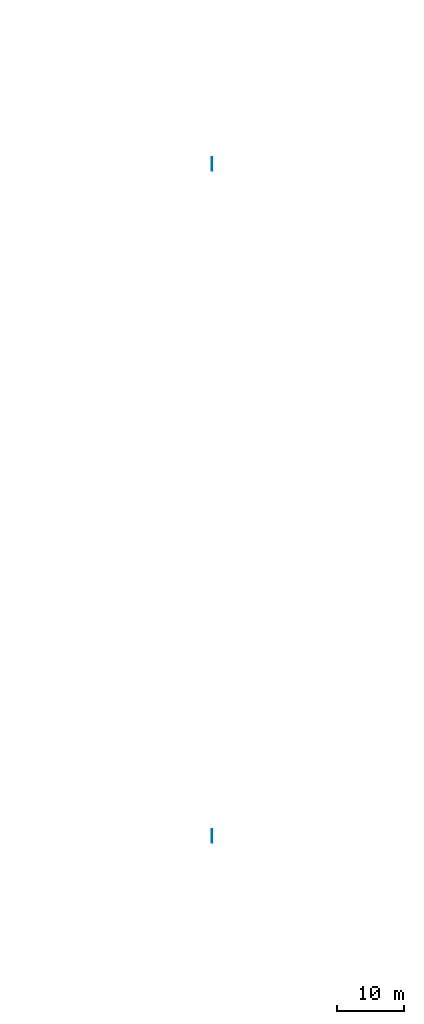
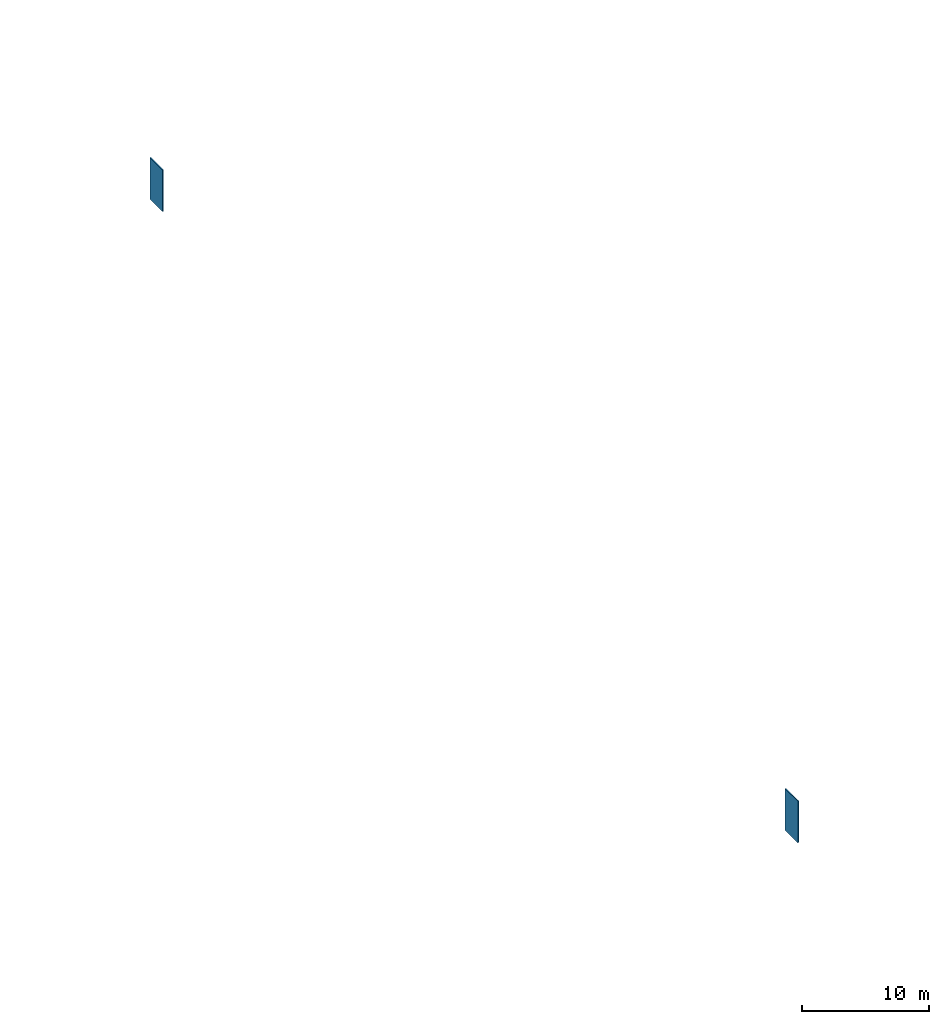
# One storey, part 100 of 164: 2 walls.
"""IFC2X3 building model written with IfcOpenShell, lengths in millimetres."""

import ifcopenshell
import ifcopenshell.guid

model = None  # the IFC model being written
_history = None  # IfcOwnerHistory: only IFC2X3 demands one
_inside = {}  # id of a spatial element -> (the spatial element, [elements in it])
_under = {}  # id of a project, library or spatial element -> (it, [spatial elements below it])
_declared = {}  # id of a project -> (the project, [libraries it declares])
_typed = {}  # id of a type object -> (the type object, [elements of that type])
_made_of = {}  # id of a material, layer set ... -> (it, [elements and type objects made of it])


def new_model(schema):
    """Start an empty IFC model of exactly this schema.

    Asked for "IFC4X3", IfcOpenShell would pick the latest addendum, in which some entities
    have other attributes; the version numbers below select the first issue.
    IFC2X3 requires an IfcOwnerHistory on every rooted entity: one is made here for all.
    """
    global model, _history
    if schema == "IFC4X3":
        model = ifcopenshell.file(schema_version=(4, 3, 0, 0))
    else:
        model = ifcopenshell.file(schema=schema)
    _inside.clear()
    _under.clear()
    _declared.clear()
    _typed.clear()
    _made_of.clear()
    _history = None
    if model.schema == "IFC2X3":
        org = make("IfcOrganization", Name="unknown")
        user = make(
            "IfcPersonAndOrganization",
            ThePerson=make("IfcPerson", FamilyName="unknown"),
            TheOrganization=org,
        )
        app = make(
            "IfcApplication",
            ApplicationDeveloper=org,
            Version="unknown",
            ApplicationFullName="unknown",
            ApplicationIdentifier="unknown",
        )
        _history = make(
            "IfcOwnerHistory",
            OwningUser=user,
            OwningApplication=app,
            ChangeAction="ADDED",
            CreationDate=0,
        )
    return model


def make(cls, **values):
    """One entity of the class cls with the attributes given. An attribute that is None is left unset."""
    return model.create_entity(
        cls, **{name: value for name, value in values.items() if value is not None}
    )


def entity(cls, *values):
    """Any entity or typed value of the class cls, its attributes in the order of the schema. None: left unset."""
    e = model.create_entity(cls)
    for i, value in enumerate(values):
        if value is not None:
            e[i] = value
    return e


def rooted(cls, **values):
    """An entity with a GlobalId (a new one), such as an element, a storey or a relation."""
    return make(cls, GlobalId=ifcopenshell.guid.new(), OwnerHistory=_history, **values)


def si_unit(unit_type, name, prefix=None):
    """IfcSIUnit, for example si_unit("LENGTHUNIT", "METRE", prefix="MILLI")."""
    return make("IfcSIUnit", UnitType=unit_type, Prefix=prefix, Name=name)


def converted_unit(unit_type, name, factor, base, dimensions=None, offset=None):
    """IfcConversionBasedUnit, such as the inch: factor (a typed value) times the base unit."""
    return make(
        "IfcConversionBasedUnit"
        if offset is None
        else "IfcConversionBasedUnitWithOffset",
        ConversionOffset=offset,
        Dimensions=None
        if dimensions is None
        else entity("IfcDimensionalExponents", *dimensions),
        UnitType=unit_type,
        Name=name,
        ConversionFactor=make(
            "IfcMeasureWithUnit", ValueComponent=factor, UnitComponent=base
        ),
    )


def derived_unit(unit_type, elements):
    """IfcDerivedUnit: a product of units, each with its exponent."""
    return make(
        "IfcDerivedUnit",
        Elements=[
            make("IfcDerivedUnitElement", Unit=unit, Exponent=power)
            for unit, power in elements
        ],
        UnitType=unit_type,
    )


def assignment(units):
    """IfcUnitAssignment: the units of a project."""
    return None if units is None else make("IfcUnitAssignment", Units=units)


def point(xyz):
    """IfcCartesianPoint."""
    return None if xyz is None else make("IfcCartesianPoint", Coordinates=xyz)


def direction(xyz):
    """IfcDirection."""
    return None if xyz is None else make("IfcDirection", DirectionRatios=xyz)


def frame(location, z_axis=None, x_axis=None):
    """IfcAxis2Placement3D, a coordinate frame: its origin and axes. An axis left out is left unset."""
    return make(
        "IfcAxis2Placement3D",
        Location=point(location),
        Axis=direction(z_axis),
        RefDirection=direction(x_axis),
    )


def frame_2d(location, x_axis=None):
    """IfcAxis2Placement2D, a coordinate frame in the plane: its origin and x axis."""
    return make(
        "IfcAxis2Placement2D", Location=point(location), RefDirection=direction(x_axis)
    )


def origin():
    """The frame at (0, 0, 0) with its axes left unset."""
    return frame((0.0, 0.0, 0.0))


def place(relative_to, where):
    """IfcLocalPlacement: puts the frame where relative to a parent placement (None: the world)."""
    return make(
        "IfcLocalPlacement", PlacementRelTo=relative_to, RelativePlacement=where
    )


def context(
    kind, dimensions, precision=None, world=None, true_north=None, identifier=None
):
    """IfcGeometricRepresentationContext, for example the 3D "Model" context."""
    return make(
        "IfcGeometricRepresentationContext",
        ContextIdentifier=identifier,
        ContextType=kind,
        CoordinateSpaceDimension=dimensions,
        Precision=precision,
        WorldCoordinateSystem=world,
        TrueNorth=true_north,
    )


def subcontext(parent, identifier, kind, view, scale=None):
    """IfcGeometricRepresentationSubContext, for example "Body" below "Model"."""
    return make(
        "IfcGeometricRepresentationSubContext",
        ContextIdentifier=identifier,
        ContextType=kind,
        ParentContext=parent,
        TargetScale=scale,
        TargetView=view,
    )


def project(units=None, contexts=None):
    """IfcProject with its units and contexts."""
    return rooted(
        "IfcProject",
        Name="project",
        RepresentationContexts=contexts,
        UnitsInContext=assignment(units),
    )


def spatial(cls, under=None, at=None, **own):
    """A site, building, storey or space (cls), placed at a placement, below another one or the project."""
    s = rooted(cls, ObjectPlacement=at, **own)
    if under is not None:
        _under.setdefault(under.id(), (under, []))[1].append(s)
    return s


def profile(cls, at=None, kind="AREA", **sizes):
    """A parametric profile (cls). Its sizes go by their IFC names, for example OverallWidth=200.0."""
    return make(cls, ProfileType=kind, Position=at, **sizes)


def rectangle(**sizes):
    """IfcRectangleProfileDef."""
    return profile("IfcRectangleProfileDef", **sizes)


def extrude(swept, where, along, depth):
    """IfcExtrudedAreaSolid: the profile swept, set in the frame where, extruded along a direction by depth."""
    return make(
        "IfcExtrudedAreaSolid",
        SweptArea=swept,
        Position=where,
        ExtrudedDirection=direction(along),
        Depth=depth,
    )


def shape(context_of_items, identifier, shape_type, items):
    """IfcShapeRepresentation: the items that make up one representation, for example the "Body"."""
    return make(
        "IfcShapeRepresentation",
        ContextOfItems=context_of_items,
        RepresentationIdentifier=identifier,
        RepresentationType=shape_type,
        Items=items,
    )


def material(Name=None, Category=None):
    """IfcMaterial."""
    return make("IfcMaterial", Name=Name, Category=Category)


def layer(
    of_material, thickness, ventilated=None, Name=None, Category=None, Priority=None
):
    """IfcMaterialLayer: one layer of a wall or slab, of a material (None: an air gap)."""
    return make(
        "IfcMaterialLayer",
        Material=of_material,
        LayerThickness=thickness,
        IsVentilated=ventilated,
        Name=Name,
        Category=Category,
        Priority=Priority,
    )


def layer_set(layers, Name=None):
    """IfcMaterialLayerSet."""
    return make("IfcMaterialLayerSet", MaterialLayers=layers, LayerSetName=Name)


def layer_usage(for_layer_set, set_direction, sense, offset, extent=None):
    """IfcMaterialLayerSetUsage: how a layer set lies in its element."""
    return make(
        "IfcMaterialLayerSetUsage",
        ForLayerSet=for_layer_set,
        LayerSetDirection=set_direction,
        DirectionSense=sense,
        OffsetFromReferenceLine=offset,
        ReferenceExtent=extent,
    )


def made_of(thing, what):
    """Note that an element or type object is made of a material, layer set ...; save() writes the relation."""
    if what is not None:
        _made_of.setdefault(what.id(), (what, []))[1].append(thing)
    return thing


def type_object(cls, material=None, **own):
    """A type object (cls), such as IfcWallType, which elements share."""
    return made_of(rooted(cls, **own), material)


def element(
    cls,
    number,
    at=None,
    inside=None,
    cuts=None,
    type_object=None,
    material=None,
    context=None,
    identifier="Body",
    shape_type=None,
    held_by="IfcProductDefinitionShape",
    body=None,
    shapes=None,
    **own,
):
    """One element of the class cls, such as IfcWall. Its Tag is "e" and its number.

    at: its placement. inside: the storey or other place that contains it. cuts: it is an
    opening in that element (IfcRelVoidsElement). A single representation is given by context,
    identifier, shape_type and body (its items); several are given by shapes. held_by: the class
    of the entity that holds the representations. save() writes the other relations.
    """
    e = rooted(cls, Tag="e%d" % number, ObjectPlacement=at, **own)
    if body is not None:
        shapes = [shape(context, identifier, shape_type, body)]
    if shapes is not None:
        e.Representation = make(held_by, Representations=shapes)
    if inside is not None:
        _inside.setdefault(inside.id(), (inside, []))[1].append(e)
    if cuts is not None:
        rooted(
            "IfcRelVoidsElement", RelatingBuildingElement=cuts, RelatedOpeningElement=e
        )
    if type_object is not None:
        _typed.setdefault(type_object.id(), (type_object, []))[1].append(e)
    return made_of(e, material)


def aggregate(whole, parts):
    """IfcRelAggregates: a whole, such as a stair, and the parts it consists of."""
    return rooted("IfcRelAggregates", RelatingObject=whole, RelatedObjects=parts)


def save(model, path):
    """Write the relations noted so far, then the file.

    IfcRelAggregates (storeys below a building ...), IfcRelContainedInSpatialStructure (elements
    in a storey), IfcRelDefinesByType, IfcRelAssociatesMaterial and IfcRelDeclares: one each for
    every whole, place, type object, material and project.
    """
    for whole, parts in _under.values():
        aggregate(whole, parts)
    for where, things in _inside.values():
        rooted(
            "IfcRelContainedInSpatialStructure",
            RelatedElements=things,
            RelatingStructure=where,
        )
    for kind, things in _typed.values():
        rooted("IfcRelDefinesByType", RelatedObjects=things, RelatingType=kind)
    for what, things in _made_of.values():
        rooted("IfcRelAssociatesMaterial", RelatedObjects=things, RelatingMaterial=what)
    for by, libraries in _declared.values():
        rooted("IfcRelDeclares", RelatingContext=by, RelatedDefinitions=libraries)
    model.write(path)


model = new_model("IFC2X3")

# Units and contexts
model_context = context("Model", 3, precision=0.01, world=origin(), true_north=direction((6.12303176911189e-17, 1.0)))
body_context = subcontext(model_context, "Body", "Model", "MODEL_VIEW")
ifc_project = project(units=[si_unit("LENGTHUNIT", "METRE", prefix="MILLI"), si_unit("AREAUNIT", "SQUARE_METRE"), si_unit("VOLUMEUNIT", "CUBIC_METRE"), converted_unit("PLANEANGLEUNIT", "DEGREE", entity("IfcRatioMeasure", 0.0174532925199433), si_unit("PLANEANGLEUNIT", "RADIAN"), dimensions=[0, 0, 0, 0, 0, 0, 0]), si_unit("MASSUNIT", "GRAM", prefix="KILO"), derived_unit("MASSDENSITYUNIT", [(si_unit("MASSUNIT", "GRAM", prefix="KILO"), 1), (si_unit("LENGTHUNIT", "METRE"), -3)]), derived_unit("MOMENTOFINERTIAUNIT", [(si_unit("LENGTHUNIT", "METRE"), 4)]), si_unit("TIMEUNIT", "SECOND"), si_unit("FREQUENCYUNIT", "HERTZ"), si_unit("THERMODYNAMICTEMPERATUREUNIT", "DEGREE_CELSIUS"), derived_unit("THERMALTRANSMITTANCEUNIT", [(si_unit("MASSUNIT", "GRAM", prefix="KILO"), 1), (si_unit("THERMODYNAMICTEMPERATUREUNIT", "KELVIN"), -1), (si_unit("TIMEUNIT", "SECOND"), -3)]), derived_unit("VOLUMETRICFLOWRATEUNIT", [(si_unit("LENGTHUNIT", "METRE"), 3), (si_unit("TIMEUNIT", "SECOND"), -1)]), si_unit("ELECTRICCURRENTUNIT", "AMPERE"), si_unit("ELECTRICVOLTAGEUNIT", "VOLT"), si_unit("POWERUNIT", "WATT"), si_unit("FORCEUNIT", "NEWTON", prefix="KILO"), si_unit("ILLUMINANCEUNIT", "LUX"), si_unit("LUMINOUSFLUXUNIT", "LUMEN"), si_unit("LUMINOUSINTENSITYUNIT", "CANDELA"), derived_unit("USERDEFINED", [(si_unit("MASSUNIT", "GRAM", prefix="KILO"), -1), (si_unit("LENGTHUNIT", "METRE"), -2), (si_unit("TIMEUNIT", "SECOND"), 3), (si_unit("LUMINOUSFLUXUNIT", "LUMEN"), 1)]), derived_unit("LINEARVELOCITYUNIT", [(si_unit("LENGTHUNIT", "METRE"), 1), (si_unit("TIMEUNIT", "SECOND"), -1)]), si_unit("PRESSUREUNIT", "PASCAL"), derived_unit("USERDEFINED", [(si_unit("LENGTHUNIT", "METRE"), -2), (si_unit("MASSUNIT", "GRAM", prefix="KILO"), 1), (si_unit("TIMEUNIT", "SECOND"), -2)]), derived_unit("LINEARFORCEUNIT", [(si_unit("MASSUNIT", "GRAM", prefix="KILO"), 1), (si_unit("LENGTHUNIT", "METRE"), 1), (si_unit("TIMEUNIT", "SECOND"), -2), (si_unit("LENGTHUNIT", "METRE"), -1)]), derived_unit("PLANARFORCEUNIT", [(si_unit("MASSUNIT", "GRAM", prefix="KILO"), 1), (si_unit("LENGTHUNIT", "METRE"), 1), (si_unit("TIMEUNIT", "SECOND"), -2), (si_unit("LENGTHUNIT", "METRE"), -2)])], contexts=[model_context])

# Site, building, storey
site_placement = place(None, origin())
site = spatial("IfcSite", under=ifc_project, at=site_placement, Name="Default", CompositionType="ELEMENT")
building_placement = place(site_placement, origin())
building = spatial("IfcBuilding", under=site, at=building_placement, CompositionType="ELEMENT")
storey_placement = place(building_placement, origin())
storey = spatial("IfcBuildingStorey", under=building, at=storey_placement, Name="Level 1", CompositionType="ELEMENT", Elevation=0.0)

# Walls
ifc_material = material(Name="Default Wall")
ifc_layer = layer(ifc_material, 100.0)
ifc_layer_set = layer_set([ifc_layer], Name="Basic Wall:Generic - 100mm")
ifc_layer_usage_1 = layer_usage(ifc_layer_set, "AXIS2", "NEGATIVE", 50.0)
wall_type = type_object("IfcWallType", Name="Basic Wall:Generic - 100mm", PredefinedType="STANDARD", material=ifc_layer_set)
wall_1_placement = place(storey_placement, frame((200050.0, 1301000.0, 0.0), z_axis=(0.0, 0.0, 1.0), x_axis=(0.0, -1.0, 0.0)))
element("IfcWallStandardCase", 1, at=wall_1_placement, inside=storey, type_object=wall_type, material=ifc_layer_usage_1, Name="Basic Wall:Generic - 100mm", ObjectType="Basic Wall:Generic - 100mm", context=body_context, shape_type="SweptSolid", body=[
    extrude(rectangle(XDim=1999.99999999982, YDim=99.9999999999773, at=frame_2d((999.999999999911, 1.60937929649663e-12), x_axis=(-1.0, 0.0))), origin(), (0.0, 0.0, 1.0), 4000.0),
])
ifc_layer_usage_2 = layer_usage(ifc_layer_set, "AXIS2", "NEGATIVE", 50.0)
wall_2_placement = place(storey_placement, frame((200050.0, 1401000.0, 0.0), z_axis=(0.0, 0.0, 1.0), x_axis=(0.0, -1.0, 0.0)))
element("IfcWallStandardCase", 2, at=wall_2_placement, inside=storey, type_object=wall_type, material=ifc_layer_usage_2, Name="Basic Wall:Generic - 100mm", ObjectType="Basic Wall:Generic - 100mm", context=body_context, shape_type="SweptSolid", body=[
    extrude(rectangle(XDim=1999.99999999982, YDim=99.9999999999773, at=frame_2d((999.999999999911, 1.60937929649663e-12), x_axis=(-1.0, 0.0))), origin(), (0.0, 0.0, 1.0), 4000.0),
])

save(model, "model.ifc")
